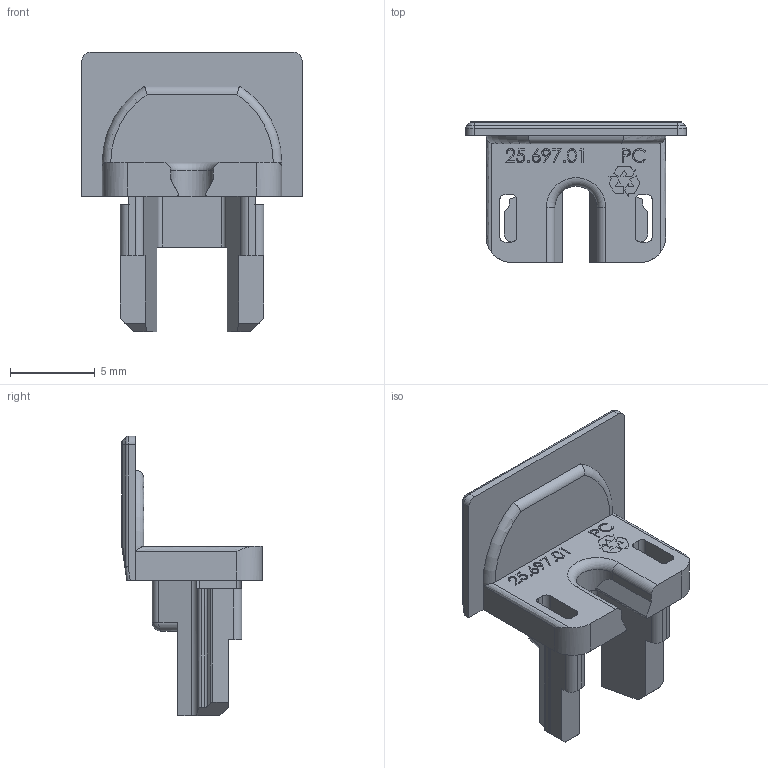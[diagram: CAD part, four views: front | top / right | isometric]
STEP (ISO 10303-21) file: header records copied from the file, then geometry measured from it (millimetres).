
FILE_DESCRIPTION (( 'STEP AP203' ), '1' );
FILE_NAME ('Endkappen_ChannelLine_i2_24.STEP', '2024-11-29T06:24:31', ( '' ), ( '' ), 'SwSTEP 2.0', 'SolidWorks 2023', '' );
FILE_SCHEMA (( 'CONFIG_CONTROL_DESIGN' ));
Length unit declared in the file: millimetre
Products named in the file (1): Endkappen_ChannelLine_i2_24
Bounding box: 13 x 8.3 x 16.5 mm (x, y, z)
Volume: 305.5 mm3; surface area: 651.5 mm2
Topology: 1 solids, 1 shells, 305 faces, 818 edges, 526 vertices
Faces by surface type: plane 156, bspline 70, cylinder 59, torus 8, cone 8, sphere 4
Entity records: 14945 total; most frequent: CARTESIAN_POINT 7744, ORIENTED_EDGE 1624, DIRECTION 1230, EDGE_CURVE 812, VERTEX_POINT 526, VECTOR 522, LINE 522, AXIS2_PLACEMENT_3D 354
